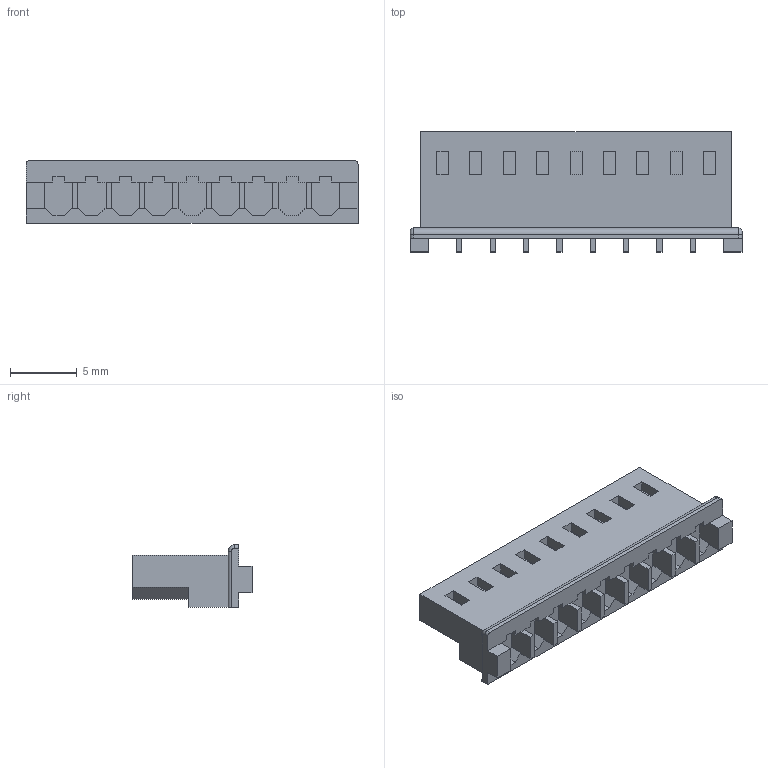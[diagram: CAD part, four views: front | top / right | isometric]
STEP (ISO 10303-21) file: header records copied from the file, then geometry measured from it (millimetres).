
FILE_DESCRIPTION((''),'2;1');
FILE_NAME('050375093','2016-10-25T',('gsharma'),(''),'PRO/ENGINEER BY PARAMETRIC TECHNOLOGY CORPORATION, 2012310','PRO/ENGINEER BY PARAMETRIC TECHNOLOGY CORPORATION, 2012310','');
FILE_SCHEMA(('CONFIG_CONTROL_DESIGN'));
Length unit declared in the file: millimetre
Products named in the file (1): 050375093
Bounding box: 24.9 x 9 x 4.7 mm (x, y, z)
Volume: 623.9 mm3; surface area: 859.1 mm2
Topology: 1 solids, 1 shells, 265 faces, 711 edges, 482 vertices
Faces by surface type: plane 222, cylinder 23, cone 18, torus 2
Entity records: 8122 total; most frequent: CARTESIAN_POINT 1427, ORIENTED_EDGE 1390, DIRECTION 1309, EDGE_CURVE 695, VECTOR 645, LINE 645, VERTEX_POINT 450, AXIS2_PLACEMENT_3D 332
